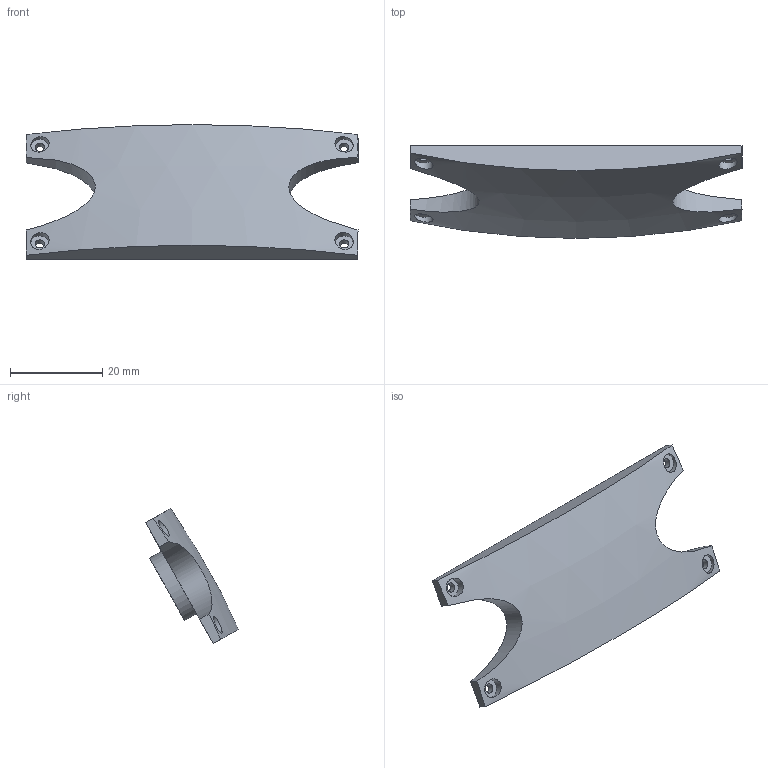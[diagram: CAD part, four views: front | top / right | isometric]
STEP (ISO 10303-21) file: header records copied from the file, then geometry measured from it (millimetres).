
FILE_DESCRIPTION(/* description */ (''),/* implementation_level */ '2;1');
FILE_NAME(/* name */ 'C:/Users/Rasika Jadhav/Downloads/Mission 2 FLoatSat/Fixture v6.step',/* time_stamp */ '2022-05-16T03:03:51+02:00',/* author */ (''),/* organization */ (''),/* preprocessor_version */ 'ST-DEVELOPER v18.1',/* originating_system */ 'Autodesk Translation Framework v10.14.0.1471',/* authorisation */ '');
FILE_SCHEMA (('AUTOMOTIVE_DESIGN { 1 0 10303 214 3 1 1 }'));
Length unit declared in the file: millimetre
Products named in the file (1): Fixture
Bounding box: 72 x 20.11 x 29.23 mm (x, y, z)
Volume: 9412.3 mm3; surface area: 5116.7 mm2
Topology: 1 solids, 1 shells, 26 faces, 58 edges, 40 vertices
Faces by surface type: plane 13, cylinder 10, bspline 2, sphere 1
Full cylindrical faces by diameter (mm): 2 x4, 4 x4, 13.2 x1, 15.5 x1
Entity records: 1121 total; most frequent: CARTESIAN_POINT 476, DIRECTION 118, ORIENTED_EDGE 116, EDGE_CURVE 58, AXIS2_PLACEMENT_3D 47, EDGE_LOOP 40, VERTEX_POINT 40, FACE_OUTER_BOUND 26
